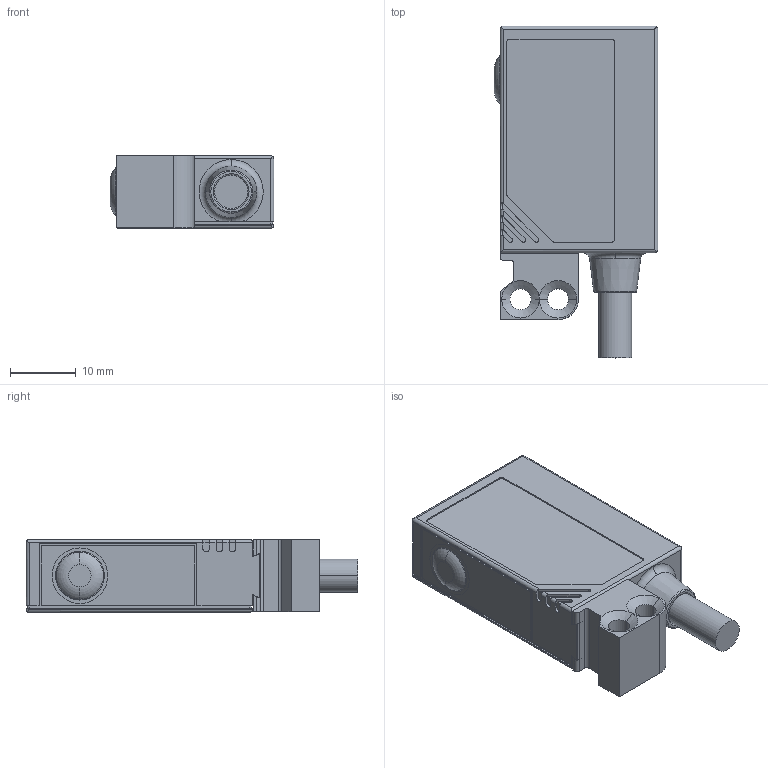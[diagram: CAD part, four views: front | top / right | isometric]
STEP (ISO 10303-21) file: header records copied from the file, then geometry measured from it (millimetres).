
FILE_DESCRIPTION( ( '' ), '1' );
FILE_NAME( '//partserver001.servicenet/client_exchange/iodir/jobs/output/wkb12417021_no0/STEP/oj5028_2_03.stp', '2008-10-07T13:25:25', ( '' ), ( '' ), ' ', ' ', ' ' );
FILE_SCHEMA( ( 'CONFIG_CONTROL_DESIGN' ) );
Length unit declared in the file: millimetre
Products named in the file (2): 1; 2
Bounding box: 24.91 x 50.5 x 11.1 mm (x, y, z)
Volume: 10509.2 mm3; surface area: 4262.5 mm2
Topology: 2 solids, 2 shells, 167 faces, 452 edges, 295 vertices
Faces by surface type: plane 82, cylinder 61, cone 14, torus 10
Entity records: 5429 total; most frequent: CARTESIAN_POINT 970, DIRECTION 961, ORIENTED_EDGE 904, EDGE_CURVE 452, AXIS2_PLACEMENT_3D 346, VERTEX_POINT 295, LINE 269, VECTOR 269
